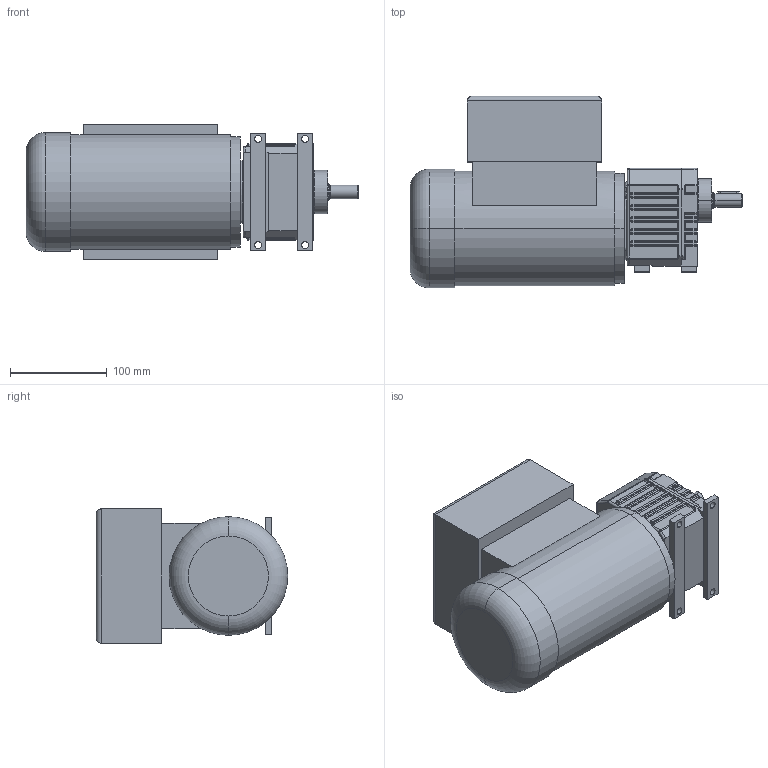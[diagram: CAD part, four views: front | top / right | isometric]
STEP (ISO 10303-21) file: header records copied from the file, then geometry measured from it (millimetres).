
FILE_DESCRIPTION(('OneSpaceDesigner STEP Export'),'2;1');
FILE_NAME('G239_G269_BF_B3_B14_Motor_Bgr_63_EEXDe.stp','2007-10-18T13:05:14',(''),(''),'OneSpace Designer STEP processor for AP214 (Solid Model)','OneSpace Modeling 15.50A 21-Sep-2007 (C) CoCreate Software GmbH','');
FILE_SCHEMA(('AUTOMOTIVE_DESIGN { 1 0 10303 214 1 1 1 1 }'));
Length unit declared in the file: millimetre
Products named in the file (2): 014_G239_G269_BF_B3_B14_Motor_Bgr_63_EEXDe.1_1; 014_G239_G269_BF_B3_B14_Motor_Bgr_63_EEXDe.1
Assembly tree (1 placements, depth 2):
  014_G239_G269_BF_B3_B14_Motor_Bgr_63_EEXDe.1
    014_G239_G269_BF_B3_B14_Motor_Bgr_63_EEXDe.1_1
Bounding box: 344 x 198.5 x 139 mm (x, y, z)
Volume: 4801166.6 mm3; surface area: 214588.4 mm2
Topology: 1 solids, 1 shells, 708 faces, 1704 edges, 930 vertices
Faces by surface type: cylinder 279, plane 159, bspline 111, sphere 74, torus 59, cone 24, extrusion 2
Entity records: 30950 total; most frequent: CARTESIAN_POINT 10803, ORIENTED_EDGE 3236, DIRECTION 2732, EDGE_CURVE 1618, AXIS2_PLACEMENT_3D 1029, VERTEX_POINT 930, EDGE_LOOP 734, COLOUR_RGB 709
